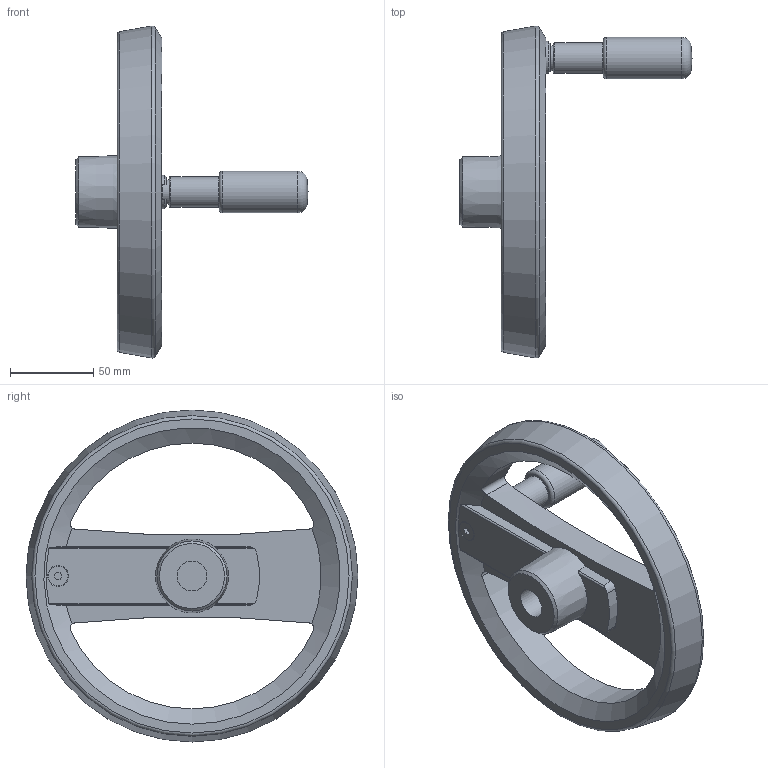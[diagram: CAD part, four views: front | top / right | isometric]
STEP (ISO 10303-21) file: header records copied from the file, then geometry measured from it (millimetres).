
FILE_DESCRIPTION( ( 'STEP AP203' ), '1' );
FILE_NAME( 'C:/Temp/Ganter_Step_05_03_2020/data/1_3/gn_924_7/gn_924_7_b/Handwheel with retractable handle GN 924.7-200-B18-R-SW (activated).stp', '2020-03-05T10:41:43', ( 'License CC BY-ND 4.0' ), ( 'CADENAS' ), ' ', 'PARTsolutions', ' ' );
FILE_SCHEMA( ( 'CONFIG_CONTROL_DESIGN' ) );
Length unit declared in the file: millimetre
Products named in the file (3): Handwheel with retractable handle GN 924.7-200-B18-R-SW (activated); _Umleggriff-Handrad GN 924.7-200-B18-R-SW-1; _Umleggriff-Handrad GN 924.7-200-B18-R-SW (90)-2
Assembly tree (2 placements, depth 2):
  Handwheel with retractable handle GN 924.7-200-B18-R-SW (activated)
    _Umleggriff-Handrad GN 924.7-200-B18-R-SW-1
    _Umleggriff-Handrad GN 924.7-200-B18-R-SW (90)-2
Bounding box: 139.5 x 199.58 x 199.58 mm (x, y, z)
Volume: 416902 mm3; surface area: 86001.4 mm2
Topology: 2 solids, 2 shells, 101 faces, 258 edges, 165 vertices
Faces by surface type: plane 41, cylinder 40, cone 10, torus 8, sphere 2
Full cylindrical faces by diameter (mm): 4 x4, 5 x1, 8 x1, 12 x1, 15 x1, 18 x1, 18.5 x1, 20 x1, 25 x2, 26.6 x1
Entity records: 3335 total; most frequent: CARTESIAN_POINT 938, DIRECTION 486, ORIENTED_EDGE 432, EDGE_CURVE 216, AXIS2_PLACEMENT_3D 203, VERTEX_POINT 158, EDGE_LOOP 145, FACE_OUTER_BOUND 122
